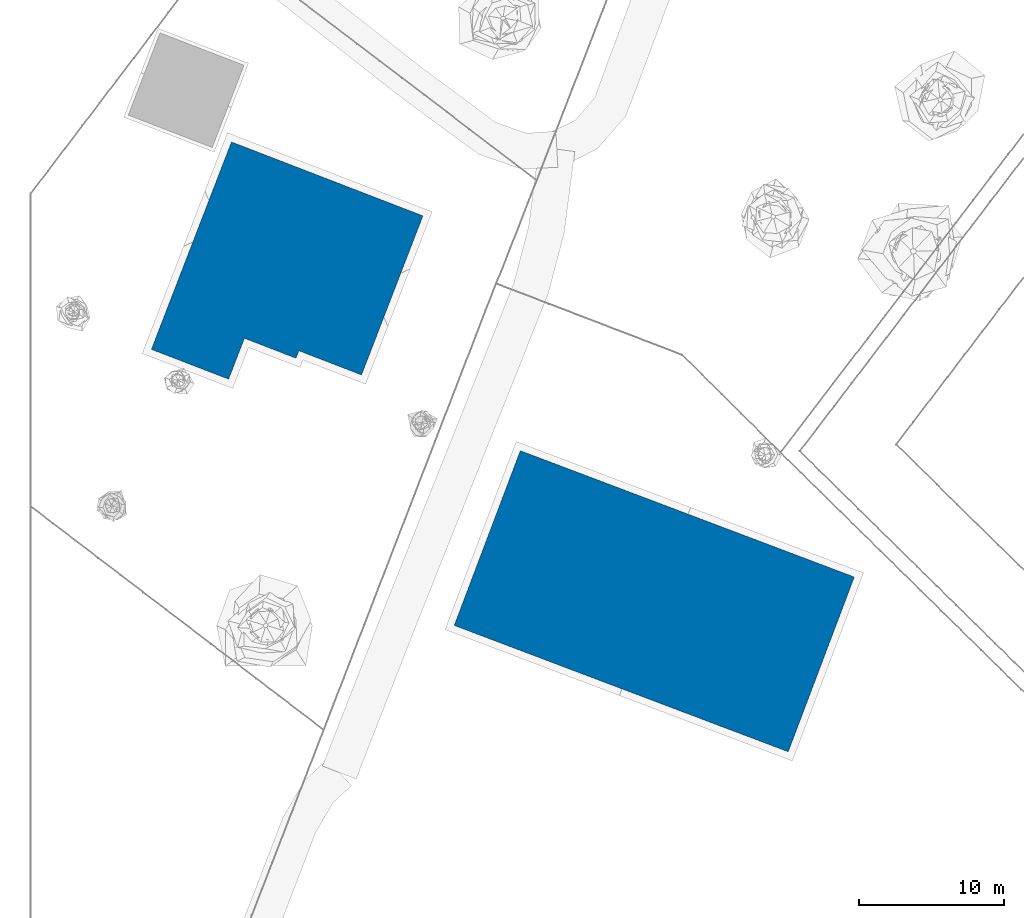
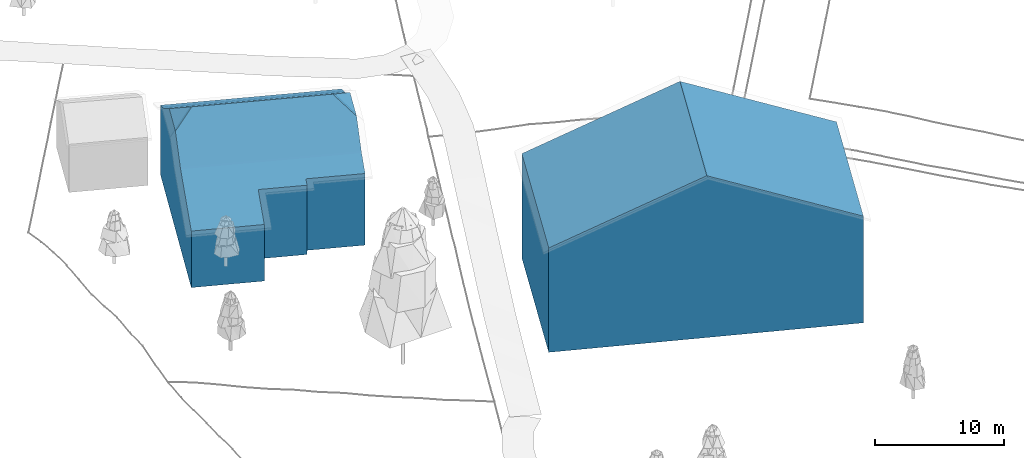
# Not in any storey, part 1 of 88: 2 walls.
"""IFC4 building model written with IfcOpenShell, lengths in metres."""

from ifc_helpers import new_model, si_unit, origin_with_axes, place, context, subcontext, project, spatial, faceted_brep, element, save


model = new_model("IFC4")

# Units and contexts
model_context = context("Model", 3, precision=1e-05, world=origin_with_axes())
body_context = subcontext(model_context, "Body", "Model", "MODEL_VIEW")
ifc_project = project(units=[si_unit("LENGTHUNIT", "METRE"), si_unit("AREAUNIT", "SQUARE_METRE"), si_unit("VOLUMEUNIT", "CUBIC_METRE"), si_unit("PLANEANGLEUNIT", "RADIAN")], contexts=[model_context])

# Sites, building
site_1_placement = place(None, origin_with_axes())
site_1 = spatial("IfcSite", under=ifc_project, at=site_1_placement, Name="CH907857693633", CompositionType="ELEMENT")
site_2_placement = place(None, origin_with_axes())
site_2 = spatial("IfcSite", under=site_1, at=site_2_placement, Name="Buildings", CompositionType="ELEMENT")
building_1_placement = place(None, origin_with_axes())
building_1 = spatial("IfcBuilding", under=site_2, at=building_1_placement, Name="Building_2D9329A2", CompositionType="ELEMENT")

# Wall
wall_1_placement = place(building_1_placement, origin_with_axes())
element("IfcWall", 1, at=wall_1_placement, inside=building_1, Name="Building_2D9329A2_Wall", PredefinedType="NOTDEFINED", context=body_context, shape_type="Brep", body=[
    faceted_brep([(48.8220000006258, 68.9959999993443, 12.4312877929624), (52.2780000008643, 60.7960000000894, 9.82748779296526), (54.5579999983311, 66.8260000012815, 9.82748779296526), (52.2780000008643, 60.7960000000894, 9.82748779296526), (48.8220000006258, 68.9959999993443, 12.4312877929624), (46.5419999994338, 62.9659999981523, 12.4312877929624), (48.8220000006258, 68.9959999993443, 12.4312877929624), (54.5579999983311, 66.8260000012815, 9.82748779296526), (56.8379999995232, 72.8559999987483, 9.82748779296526), (45.3660000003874, 77.1959999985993, 15.0350877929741), (48.8220000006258, 68.9959999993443, 12.4312877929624), (51.1020000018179, 75.0260000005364, 12.4312877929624), (37.2960000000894, 73.3539999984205, 12.3253877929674), (40.8040000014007, 65.1339999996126, 15.0350877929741), (43.0859999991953, 71.1660000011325, 15.0350877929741), (45.3660000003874, 77.1959999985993, 15.0350877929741), (39.5780000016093, 79.3859999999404, 12.3252877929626), (37.2960000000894, 73.3539999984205, 12.3253877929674), (40.8040000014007, 65.1339999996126, 15.0350877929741), (37.2960000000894, 73.3539999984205, 12.3253877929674), (35.0159999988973, 67.3240000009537, 12.3253877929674), (37.2960000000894, 73.3539999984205, 12.3253877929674), (43.0859999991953, 71.1660000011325, 15.0350877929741), (45.3660000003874, 77.1959999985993, 15.0350877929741), (37.2960000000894, 73.3539999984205, 12.3253877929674), (33.7879999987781, 81.5740000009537, 9.61358779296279), (31.5080000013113, 75.5439999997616, 9.61358779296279), (33.7879999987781, 81.5740000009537, 9.61358779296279), (37.2960000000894, 73.3539999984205, 12.3253877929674), (39.5780000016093, 79.3859999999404, 12.3252877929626), (52.2780000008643, 60.7960000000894, -0.231712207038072), (54.5579999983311, 66.8260000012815, -0.231712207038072), (54.5579999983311, 66.8260000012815, 4.79788779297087), (56.8379999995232, 72.8559999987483, 9.82748779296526), (54.5579999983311, 66.8260000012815, 9.82748779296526), (54.5579999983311, 66.8260000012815, 4.79788779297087), (52.2780000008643, 60.7960000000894, 9.82748779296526), (54.5579999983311, 66.8260000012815, 4.79788779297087), (54.5579999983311, 66.8260000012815, 9.82748779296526), (54.5579999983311, 66.8260000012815, 4.79788779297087), (56.8379999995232, 72.8559999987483, -0.231712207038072), (56.8379999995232, 72.8559999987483, 9.82748779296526), (56.8379999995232, 72.8559999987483, -0.231712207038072), (54.5579999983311, 66.8260000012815, 4.79788779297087), (54.5579999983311, 66.8260000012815, -0.231712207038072), (54.5579999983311, 66.8260000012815, 4.79788779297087), (52.2780000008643, 60.7960000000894, 9.82748779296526), (52.2780000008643, 60.7960000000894, -0.231712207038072), (56.8379999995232, 72.8559999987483, -0.231712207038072), (51.1020000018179, 75.0260000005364, 7.401687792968), (56.8379999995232, 72.8559999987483, 9.82748779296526), (51.1020000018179, 75.0260000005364, 12.4312877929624), (56.8379999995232, 72.8559999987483, 9.82748779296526), (51.1020000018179, 75.0260000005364, 7.401687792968), (39.5780000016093, 79.3859999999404, 7.401687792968), (33.7879999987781, 81.5740000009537, 9.61358779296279), (39.5780000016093, 79.3859999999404, 12.3252877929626), (33.7879999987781, 81.5740000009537, 9.61358779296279), (39.5780000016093, 79.3859999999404, 7.401687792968), (33.7879999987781, 81.5740000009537, -0.231712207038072), (45.3139999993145, 77.2159999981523, -0.231712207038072), (39.5780000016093, 79.3859999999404, 7.401687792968), (45.339999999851, 77.2060000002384, 7.401687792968), (51.1020000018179, 75.0260000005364, 7.401687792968), (51.0760000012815, 75.0359999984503, -0.231712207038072), (45.3139999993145, 77.2159999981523, -0.231712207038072), (45.3139999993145, 77.2159999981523, -0.231712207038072), (45.339999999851, 77.2060000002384, 7.401687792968), (51.1020000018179, 75.0260000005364, 7.401687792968), (51.1020000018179, 75.0260000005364, 7.401687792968), (56.8379999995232, 72.8559999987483, -0.231712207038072), (51.0760000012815, 75.0359999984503, -0.231712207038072), (29.2280000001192, 69.5139999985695, 9.61358779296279), (31.5080000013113, 75.5439999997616, 4.68998779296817), (29.2280000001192, 69.5139999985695, -0.231612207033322), (31.5080000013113, 75.5439999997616, -0.231712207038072), (29.2280000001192, 69.5139999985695, -0.231612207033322), (31.5080000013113, 75.5439999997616, 4.68998779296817), (31.5080000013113, 75.5439999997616, 4.68998779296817), (29.2280000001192, 69.5139999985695, 9.61358779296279), (31.5080000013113, 75.5439999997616, 9.61358779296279), (33.7879999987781, 81.5740000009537, -0.231712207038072), (31.5080000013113, 75.5439999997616, 4.68998779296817), (33.7879999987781, 81.5740000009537, 9.61358779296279), (31.5080000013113, 75.5439999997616, 9.61358779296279), (33.7879999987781, 81.5740000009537, 9.61358779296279), (31.5080000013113, 75.5439999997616, 4.68998779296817), (31.5080000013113, 75.5439999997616, 4.68998779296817), (33.7879999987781, 81.5740000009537, -0.231712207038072), (31.5080000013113, 75.5439999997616, -0.231712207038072), (52.2780000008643, 60.7960000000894, 9.82748779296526), (46.5419999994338, 62.9659999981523, 12.4312877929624), (46.5419999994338, 62.9659999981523, 7.401687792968), (46.5419999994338, 62.9659999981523, 7.401687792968), (52.2780000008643, 60.7960000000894, -0.231712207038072), (52.2780000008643, 60.7960000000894, 9.82748779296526), (35.0159999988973, 67.3240000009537, 7.401687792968), (29.2280000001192, 69.5139999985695, 9.61358779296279), (29.2280000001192, 69.5139999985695, -0.231612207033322), (29.2280000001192, 69.5139999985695, 9.61358779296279), (35.0159999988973, 67.3240000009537, 7.401687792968), (35.0159999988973, 67.3240000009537, 12.3253877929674), (40.7780000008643, 65.1440000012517, 7.401687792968), (40.7520000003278, 65.1539999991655, -0.233712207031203), (46.5419999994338, 62.9659999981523, 7.401687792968), (40.7520000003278, 65.1539999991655, -0.233712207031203), (35.0159999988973, 67.3240000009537, 7.401687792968), (34.9899999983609, 67.3339999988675, -0.231712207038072), (35.0159999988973, 67.3240000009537, 7.401687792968), (40.7520000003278, 65.1539999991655, -0.233712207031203), (40.7780000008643, 65.1440000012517, 7.401687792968), (52.2780000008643, 60.7960000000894, -0.231712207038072), (47.6559999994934, 65.9899999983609, -0.231712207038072), (54.5579999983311, 66.8260000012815, -0.231712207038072), (34.9899999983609, 67.3339999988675, -0.231712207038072), (29.2280000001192, 69.5139999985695, -0.231612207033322), (36.1299999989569, 70.3500000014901, -0.231712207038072), (38.410000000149, 76.3799999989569, -0.231712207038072), (33.7879999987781, 81.5740000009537, -0.231712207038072), (39.5500000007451, 79.3960000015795, -0.231712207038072), (47.6559999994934, 65.9899999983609, -0.231712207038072), (52.2780000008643, 60.7960000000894, -0.231712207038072), (46.5159999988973, 62.9739999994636, -0.231712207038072), (51.0760000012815, 75.0359999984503, -0.231712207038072), (56.8379999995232, 72.8559999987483, -0.231712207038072), (49.9360000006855, 72.0219999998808, -0.231712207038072), (36.1299999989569, 70.3500000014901, -0.231712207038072), (40.7520000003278, 65.1539999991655, -0.233712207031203), (34.9899999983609, 67.3339999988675, -0.231712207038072), (49.9360000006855, 72.0219999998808, -0.231712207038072), (45.3139999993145, 77.2159999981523, -0.231712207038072), (51.0760000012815, 75.0359999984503, -0.231712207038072), (47.6559999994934, 65.9899999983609, -0.231712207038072), (43.0320000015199, 71.1860000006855, -0.231712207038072), (49.9360000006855, 72.0219999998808, -0.231712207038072), (36.1299999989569, 70.3500000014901, -0.231712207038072), (29.2280000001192, 69.5139999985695, -0.231612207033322), (38.410000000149, 76.3799999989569, -0.231712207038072), (43.0320000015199, 71.1860000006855, -0.231712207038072), (38.410000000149, 76.3799999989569, -0.231712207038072), (45.3139999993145, 77.2159999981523, -0.231712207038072), (54.5579999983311, 66.8260000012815, -0.231712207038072), (47.6559999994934, 65.9899999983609, -0.231712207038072), (56.8379999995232, 72.8559999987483, -0.231712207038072), (40.7520000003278, 65.1539999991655, -0.233712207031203), (36.1299999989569, 70.3500000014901, -0.231712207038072), (43.0320000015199, 71.1860000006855, -0.231712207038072), (38.410000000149, 76.3799999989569, -0.231712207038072), (43.0320000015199, 71.1860000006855, -0.231712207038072), (36.1299999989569, 70.3500000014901, -0.231712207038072), (31.5080000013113, 75.5439999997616, -0.231712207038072), (38.410000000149, 76.3799999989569, -0.231712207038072), (29.2280000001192, 69.5139999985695, -0.231612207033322), (33.7879999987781, 81.5740000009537, -0.231712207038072), (38.410000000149, 76.3799999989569, -0.231712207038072), (31.5080000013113, 75.5439999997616, -0.231712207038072), (43.0320000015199, 71.1860000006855, -0.231712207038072), (47.6559999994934, 65.9899999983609, -0.231712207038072), (40.7520000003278, 65.1539999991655, -0.233712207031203), (49.9360000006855, 72.0219999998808, -0.231712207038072), (56.8379999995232, 72.8559999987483, -0.231712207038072), (47.6559999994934, 65.9899999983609, -0.231712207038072), (45.3139999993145, 77.2159999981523, -0.231712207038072), (49.9360000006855, 72.0219999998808, -0.231712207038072), (43.0320000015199, 71.1860000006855, -0.231712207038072), (39.5500000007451, 79.3960000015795, -0.231712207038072), (45.3139999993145, 77.2159999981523, -0.231712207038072), (38.410000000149, 76.3799999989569, -0.231712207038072), (46.5159999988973, 62.9739999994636, -0.231712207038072), (40.7520000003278, 65.1539999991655, -0.233712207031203), (47.6559999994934, 65.9899999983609, -0.231712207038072), (40.7780000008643, 65.1440000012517, 7.401687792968), (40.8040000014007, 65.1339999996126, 15.0350877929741), (35.0159999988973, 67.3240000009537, 7.401687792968), (46.5419999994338, 62.9659999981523, 7.401687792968), (40.8040000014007, 65.1339999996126, 15.0350877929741), (40.7780000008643, 65.1440000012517, 7.401687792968), (45.3660000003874, 77.1959999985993, 15.0350877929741), (39.5780000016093, 79.3859999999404, 7.401687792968), (39.5780000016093, 79.3859999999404, 12.3252877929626), (33.7879999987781, 81.5740000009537, -0.231712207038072), (39.5780000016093, 79.3859999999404, 7.401687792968), (39.5500000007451, 79.3960000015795, -0.231712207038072), (40.8040000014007, 65.1339999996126, 15.0350877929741), (46.5419999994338, 62.9659999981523, 7.401687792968), (46.5419999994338, 62.9659999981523, 12.4312877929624), (52.2780000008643, 60.7960000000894, -0.231712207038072), (46.5419999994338, 62.9659999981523, 7.401687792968), (46.5159999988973, 62.9739999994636, -0.231712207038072), (45.3660000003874, 77.1959999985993, 15.0350877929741), (45.339999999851, 77.2060000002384, 7.401687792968), (39.5780000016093, 79.3859999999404, 7.401687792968), (45.3660000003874, 77.1959999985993, 15.0350877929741), (51.1020000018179, 75.0260000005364, 7.401687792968), (45.339999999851, 77.2060000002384, 7.401687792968), (29.2280000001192, 69.5139999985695, 9.61358779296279), (37.2960000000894, 73.3539999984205, 12.3253877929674), (31.5080000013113, 75.5439999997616, 9.61358779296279), (48.8220000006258, 68.9959999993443, 12.4312877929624), (43.0859999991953, 71.1660000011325, 15.0350877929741), (40.8040000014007, 65.1339999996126, 15.0350877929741), (48.8220000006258, 68.9959999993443, 12.4312877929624), (45.3660000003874, 77.1959999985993, 15.0350877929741), (43.0859999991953, 71.1660000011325, 15.0350877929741), (37.2960000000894, 73.3539999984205, 12.3253877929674), (29.2280000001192, 69.5139999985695, 9.61358779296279), (35.0159999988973, 67.3240000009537, 12.3253877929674), (35.0159999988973, 67.3240000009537, 7.401687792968), (40.8040000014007, 65.1339999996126, 15.0350877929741), (35.0159999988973, 67.3240000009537, 12.3253877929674), (48.8220000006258, 68.9959999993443, 12.4312877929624), (40.8040000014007, 65.1339999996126, 15.0350877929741), (46.5419999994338, 62.9659999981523, 12.4312877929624), (48.8220000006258, 68.9959999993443, 12.4312877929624), (56.8379999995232, 72.8559999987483, 9.82748779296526), (51.1020000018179, 75.0260000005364, 12.4312877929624), (51.1020000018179, 75.0260000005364, 7.401687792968), (45.3660000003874, 77.1959999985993, 15.0350877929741), (51.1020000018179, 75.0260000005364, 12.4312877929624), (35.0159999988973, 67.3240000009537, 7.401687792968), (29.2280000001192, 69.5139999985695, -0.231612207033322), (34.9899999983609, 67.3339999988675, -0.231712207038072), (46.5419999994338, 62.9659999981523, 7.401687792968), (40.7520000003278, 65.1539999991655, -0.233712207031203), (46.5159999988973, 62.9739999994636, -0.231712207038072), (39.5780000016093, 79.3859999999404, 7.401687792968), (45.3139999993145, 77.2159999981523, -0.231712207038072), (39.5500000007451, 79.3960000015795, -0.231712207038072)], [[[0, 1, 2]], [[3, 4, 5]], [[6, 7, 8]], [[9, 10, 11]], [[12, 13, 14]], [[15, 16, 17]], [[18, 19, 20]], [[21, 22, 23]], [[24, 25, 26]], [[27, 28, 29]], [[30, 31, 32]], [[33, 34, 35]], [[36, 37, 38]], [[39, 40, 41]], [[42, 43, 44]], [[45, 46, 47]], [[48, 49, 50]], [[51, 52, 53]], [[54, 55, 56]], [[57, 58, 59]], [[60, 61, 62]], [[63, 64, 65]], [[66, 67, 68]], [[69, 70, 71]], [[72, 73, 74]], [[75, 76, 77]], [[78, 79, 80]], [[81, 82, 83]], [[84, 85, 86]], [[87, 88, 89]], [[90, 91, 92]], [[93, 94, 95]], [[96, 97, 98]], [[99, 100, 101]], [[102, 103, 104]], [[105, 106, 107]], [[108, 109, 110]], [[111, 112, 113]], [[114, 115, 116]], [[117, 118, 119]], [[120, 121, 122]], [[123, 124, 125]], [[126, 127, 128]], [[129, 130, 131]], [[132, 133, 134]], [[135, 136, 137]], [[138, 139, 140]], [[141, 142, 143]], [[144, 145, 146]], [[147, 148, 149]], [[150, 151, 152]], [[153, 154, 155]], [[156, 157, 158]], [[159, 160, 161]], [[162, 163, 164]], [[165, 166, 167]], [[168, 169, 170]], [[171, 172, 173]], [[174, 175, 176]], [[177, 178, 179]], [[180, 181, 182]], [[183, 184, 185]], [[186, 187, 188]], [[189, 190, 191]], [[192, 193, 194]], [[195, 196, 197]], [[198, 199, 200]], [[201, 202, 203]], [[204, 205, 206]], [[207, 208, 209]], [[210, 211, 212]], [[213, 214, 215]], [[216, 217, 218]], [[219, 220, 221]], [[222, 223, 224]], [[225, 226, 227]]]),
])

# Building
building_2_placement = place(None, origin_with_axes())
building_2 = spatial("IfcBuilding", under=site_2, at=building_2_placement, Name="Building_7084BE5A", CompositionType="ELEMENT")

# Wall
wall_2_placement = place(building_2_placement, origin_with_axes())
element("IfcWall", 2, at=wall_2_placement, inside=building_2, Name="Building_7084BE5A_Wall", PredefinedType="NOTDEFINED", context=body_context, shape_type="Brep", body=[
    faceted_brep([(24.3680000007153, 90.7930000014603, 10.8414877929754), (23.4519999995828, 92.8909999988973, 11.9733877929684), (23.4640000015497, 88.4549999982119, 9.09758779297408), (13.1640000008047, 96.8610000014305, 11.9733877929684), (16.8520000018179, 93.2230000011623, 10.535487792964), (18.3079999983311, 94.8770000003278, 11.9733877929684), (23.4640000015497, 88.4549999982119, 9.09758779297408), (23.4519999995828, 92.8909999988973, 11.9733877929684), (16.8579999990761, 91.0029999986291, 9.09758779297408), (13.1640000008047, 96.8610000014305, 11.9733877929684), (11.1840000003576, 95.9710000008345, 10.9014877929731), (10.2520000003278, 93.5529999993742, 9.09768779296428), (25.5379999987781, 93.8310000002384, 10.8414877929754), (23.4519999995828, 92.8909999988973, 11.9733877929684), (24.3680000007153, 90.7930000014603, 10.8414877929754), (23.4519999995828, 92.8909999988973, 11.9733877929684), (19.8339999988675, 98.7190000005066, 9.09758779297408), (18.339999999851, 97.0810000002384, 10.535487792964), (26.4400000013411, 96.1710000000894, 9.09758779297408), (23.4519999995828, 92.8909999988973, 11.9733877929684), (25.5379999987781, 93.8310000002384, 10.8414877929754), (13.230000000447, 101.269000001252, 9.09768779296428), (12.2939999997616, 98.8509999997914, 10.9014877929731), (13.1640000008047, 96.8610000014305, 11.9733877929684), (13.230000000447, 101.269000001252, 9.09768779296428), (13.1640000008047, 96.8610000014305, 11.9733877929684), (18.339999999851, 97.0810000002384, 10.535487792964), (13.8520000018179, 102.885000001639, 8.23968779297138), (20.1460000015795, 99.5269999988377, 8.6696877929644), (20.4580000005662, 100.335000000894, 8.23968779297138), (26.4400000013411, 96.1710000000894, 9.09758779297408), (20.1460000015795, 99.5269999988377, 8.6696877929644), (19.8339999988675, 98.7190000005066, 9.09758779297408), (20.1460000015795, 99.5269999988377, 8.6696877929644), (26.4400000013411, 96.1710000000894, 9.09758779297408), (27.0639999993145, 97.785000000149, 8.23968779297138), (11.1840000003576, 95.9710000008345, 10.9014877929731), (13.1640000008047, 96.8610000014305, 11.9733877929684), (12.2939999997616, 98.8509999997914, 10.9014877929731), (8.3260000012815, 88.5670000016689, 6.97378779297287), (13.6539999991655, 86.5130000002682, 6.97378779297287), (14.7439999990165, 89.3350000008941, 8.17768779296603), (8.3260000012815, 88.5670000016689, 6.97378779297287), (14.7439999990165, 89.3350000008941, 8.17768779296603), (10.2520000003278, 93.5529999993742, 9.09768779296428), (14.7439999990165, 89.3350000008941, 8.17768779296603), (18.3040000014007, 87.9589999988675, 8.17568779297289), (18.5020000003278, 88.4750000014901, 8.39568779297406), (10.2520000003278, 93.5529999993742, 9.09768779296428), (14.7439999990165, 89.3350000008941, 8.17768779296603), (14.3759999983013, 91.0130000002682, 8.74768779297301), (18.5020000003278, 88.4750000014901, 8.39568779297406), (22.8260000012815, 86.804999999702, 8.39568779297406), (23.4640000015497, 88.4549999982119, 9.09758779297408), (18.5020000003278, 88.4750000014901, 8.39568779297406), (16.8579999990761, 91.0029999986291, 9.09758779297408), (14.3759999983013, 91.0130000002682, 8.74768779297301), (23.4640000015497, 88.4549999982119, 9.09758779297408), (22.8260000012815, 86.804999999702, 8.39568779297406), (24.1420000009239, 90.2129999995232, 1.63618779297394), (24.3680000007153, 90.7930000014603, 10.8414877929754), (23.4640000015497, 88.4549999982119, 9.09758779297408), (24.2540000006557, 90.5029999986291, 6.23988779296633), (22.8260000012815, 86.804999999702, 8.39568779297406), (22.8260000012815, 86.804999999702, 1.63818779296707), (24.1420000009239, 90.2129999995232, 1.63618779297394), (24.1420000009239, 90.2129999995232, 1.63618779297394), (27.0639999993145, 97.785000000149, 1.63818779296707), (25.2919999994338, 93.1909999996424, 5.3678877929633), (26.4400000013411, 96.1710000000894, 9.09758779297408), (24.839999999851, 92.0210000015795, 6.23988779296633), (25.2919999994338, 93.1909999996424, 5.3678877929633), (25.5379999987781, 93.8310000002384, 10.8414877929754), (24.3680000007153, 90.7930000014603, 10.8414877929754), (24.839999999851, 92.0210000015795, 6.23988779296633), (27.0639999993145, 97.785000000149, 1.63818779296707), (27.0639999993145, 97.785000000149, 8.23968779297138), (26.4400000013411, 96.1710000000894, 9.09758779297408), (20.4580000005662, 100.335000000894, 4.93798779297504), (27.0639999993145, 97.785000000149, 1.63818779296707), (20.4580000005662, 100.335000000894, 1.63818779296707), (20.4580000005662, 100.335000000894, 4.93798779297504), (20.4580000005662, 100.335000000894, 8.23968779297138), (27.0639999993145, 97.785000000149, 8.23968779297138), (27.0639999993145, 97.785000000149, 1.63818779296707), (20.4580000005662, 100.335000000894, 4.93798779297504), (27.0639999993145, 97.785000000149, 8.23968779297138), (20.4580000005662, 100.335000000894, 4.93798779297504), (13.8520000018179, 102.885000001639, 8.23968779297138), (20.4580000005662, 100.335000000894, 8.23968779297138), (13.8520000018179, 102.885000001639, 8.23968779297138), (20.4580000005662, 100.335000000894, 4.93798779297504), (13.8520000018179, 102.885000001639, 1.63818779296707), (20.4580000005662, 100.335000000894, 4.93798779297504), (20.4580000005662, 100.335000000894, 1.63818779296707), (13.8520000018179, 102.885000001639, 1.63818779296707), (13.8520000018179, 102.885000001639, 8.23968779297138), (13.8520000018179, 102.885000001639, 1.63818779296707), (13.230000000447, 101.269000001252, 9.09768779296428), (10.2520000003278, 93.5529999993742, 9.09768779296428), (11.089999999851, 95.7250000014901, 1.63618779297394), (9.2879999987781, 91.0610000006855, 5.36798779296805), (13.230000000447, 101.269000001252, 9.09768779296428), (12.0520000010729, 98.2190000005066, 5.3678877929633), (11.7399999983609, 97.4109999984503, 9.09768779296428), (8.32800000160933, 88.5670000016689, 1.63818779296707), (8.3260000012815, 88.5670000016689, 6.97378779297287), (9.2879999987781, 91.0610000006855, 5.36798779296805), (10.2520000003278, 93.5529999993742, 9.09768779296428), (11.1840000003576, 95.9710000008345, 10.9014877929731), (12.2939999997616, 98.8509999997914, 10.9014877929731), (10.2520000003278, 93.5529999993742, 9.09768779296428), (12.2939999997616, 98.8509999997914, 10.9014877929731), (11.7399999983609, 97.4109999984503, 9.09768779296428), (8.3260000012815, 88.5670000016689, 6.97378779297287), (8.32800000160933, 88.5670000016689, 1.63818779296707), (13.6539999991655, 86.5130000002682, 6.97378779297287), (13.6539999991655, 86.5130000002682, 1.63818779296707), (13.6539999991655, 86.5130000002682, 6.97378779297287), (8.32800000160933, 88.5670000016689, 1.63818779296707), (13.6539999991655, 86.5130000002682, 6.97378779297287), (14.7439999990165, 89.3350000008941, 1.63818779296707), (14.7439999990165, 89.3350000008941, 8.17768779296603), (14.7439999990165, 89.3350000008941, 1.63818779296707), (13.6539999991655, 86.5130000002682, 6.97378779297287), (13.6539999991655, 86.5130000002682, 1.63818779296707), (18.3040000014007, 87.9589999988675, 8.17568779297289), (14.7439999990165, 89.3350000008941, 8.17768779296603), (14.7439999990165, 89.3350000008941, 1.63818779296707), (18.3040000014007, 87.9589999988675, 1.63818779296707), (18.3040000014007, 87.9589999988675, 8.17568779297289), (14.7439999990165, 89.3350000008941, 1.63818779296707), (18.3040000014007, 87.9589999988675, 8.17568779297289), (18.5020000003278, 88.4750000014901, 1.63818779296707), (18.5020000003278, 88.4750000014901, 8.39568779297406), (18.5020000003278, 88.4750000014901, 1.63818779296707), (18.3040000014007, 87.9589999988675, 8.17568779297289), (18.3040000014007, 87.9589999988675, 1.63818779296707), (22.8260000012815, 86.804999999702, 8.39568779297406), (18.5020000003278, 88.4750000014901, 8.39568779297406), (20.6640000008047, 87.6389999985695, 5.0159877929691), (18.5020000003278, 88.4750000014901, 1.63818779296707), (22.8260000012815, 86.804999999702, 1.63818779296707), (20.6640000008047, 87.6389999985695, 5.0159877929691), (24.1420000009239, 90.2129999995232, 1.63618779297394), (22.7820000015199, 93.1290000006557, 1.63818779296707), (27.0639999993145, 97.785000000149, 1.63818779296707), (22.7820000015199, 93.1290000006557, 1.63818779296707), (21.6200000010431, 96.7329999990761, 1.63818779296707), (27.0639999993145, 97.785000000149, 1.63818779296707), (21.6200000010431, 96.7329999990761, 1.63818779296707), (22.7820000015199, 93.1290000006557, 1.63818779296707), (16.1759999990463, 95.6790000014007, 1.63818779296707), (22.7820000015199, 93.1290000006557, 1.63818779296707), (24.1420000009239, 90.2129999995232, 1.63618779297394), (18.5020000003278, 88.4750000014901, 1.63818779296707), (21.6200000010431, 96.7329999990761, 1.63818779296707), (20.4580000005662, 100.335000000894, 1.63818779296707), (27.0639999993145, 97.785000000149, 1.63818779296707), (22.8260000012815, 86.804999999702, 1.63818779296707), (18.5020000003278, 88.4750000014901, 1.63818779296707), (24.1420000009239, 90.2129999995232, 1.63618779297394), (14.2980000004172, 96.1090000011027, 1.63818779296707), (14.7439999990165, 89.3350000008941, 1.63818779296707), (11.089999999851, 95.7250000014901, 1.63618779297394), (14.7439999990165, 89.3350000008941, 1.63818779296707), (14.2980000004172, 96.1090000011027, 1.63818779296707), (16.1759999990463, 95.6790000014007, 1.63818779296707), (16.1759999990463, 95.6790000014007, 1.63818779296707), (13.8520000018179, 102.885000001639, 1.63818779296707), (20.4580000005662, 100.335000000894, 1.63818779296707), (16.1759999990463, 95.6790000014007, 1.63818779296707), (18.5020000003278, 88.4750000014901, 1.63818779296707), (14.7439999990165, 89.3350000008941, 1.63818779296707), (13.6539999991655, 86.5130000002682, 1.63818779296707), (8.32800000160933, 88.5670000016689, 1.63818779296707), (14.7439999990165, 89.3350000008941, 1.63818779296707), (11.089999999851, 95.7250000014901, 1.63618779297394), (14.7439999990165, 89.3350000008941, 1.63818779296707), (8.32800000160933, 88.5670000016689, 1.63818779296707), (13.8520000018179, 102.885000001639, 1.63818779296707), (14.2980000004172, 96.1090000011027, 1.63818779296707), (11.089999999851, 95.7250000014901, 1.63618779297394), (18.5020000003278, 88.4750000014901, 1.63818779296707), (16.1759999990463, 95.6790000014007, 1.63818779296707), (22.7820000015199, 93.1290000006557, 1.63818779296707), (20.4580000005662, 100.335000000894, 1.63818779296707), (21.6200000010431, 96.7329999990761, 1.63818779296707), (16.1759999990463, 95.6790000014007, 1.63818779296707), (14.2980000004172, 96.1090000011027, 1.63818779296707), (13.8520000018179, 102.885000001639, 1.63818779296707), (16.1759999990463, 95.6790000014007, 1.63818779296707), (18.3040000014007, 87.9589999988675, 1.63818779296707), (14.7439999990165, 89.3350000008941, 1.63818779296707), (18.5020000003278, 88.4750000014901, 1.63818779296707), (13.8520000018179, 102.885000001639, 1.63818779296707), (11.089999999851, 95.7250000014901, 1.63618779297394), (12.0520000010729, 98.2190000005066, 5.3678877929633), (13.230000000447, 101.269000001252, 9.09768779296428), (19.8339999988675, 98.7190000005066, 9.09758779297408), (20.1460000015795, 99.5269999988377, 8.6696877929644), (20.1460000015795, 99.5269999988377, 8.6696877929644), (13.8520000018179, 102.885000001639, 8.23968779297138), (13.230000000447, 101.269000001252, 9.09768779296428), (10.2520000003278, 93.5529999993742, 9.09768779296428), (16.8579999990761, 91.0029999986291, 9.09758779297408), (16.8520000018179, 93.2230000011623, 10.535487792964), (18.5020000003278, 88.4750000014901, 8.39568779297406), (23.4640000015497, 88.4549999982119, 9.09758779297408), (16.8579999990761, 91.0029999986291, 9.09758779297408), (23.4519999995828, 92.8909999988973, 11.9733877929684), (26.4400000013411, 96.1710000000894, 9.09758779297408), (19.8339999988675, 98.7190000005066, 9.09758779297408), (20.1460000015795, 99.5269999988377, 8.6696877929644), (27.0639999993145, 97.785000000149, 8.23968779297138), (20.4580000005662, 100.335000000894, 8.23968779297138), (13.1640000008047, 96.8610000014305, 11.9733877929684), (10.2520000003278, 93.5529999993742, 9.09768779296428), (16.8520000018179, 93.2230000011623, 10.535487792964), (16.8579999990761, 91.0029999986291, 9.09758779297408), (23.4519999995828, 92.8909999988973, 11.9733877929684), (16.8520000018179, 93.2230000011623, 10.535487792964), (19.8339999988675, 98.7190000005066, 9.09758779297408), (13.230000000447, 101.269000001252, 9.09768779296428), (18.339999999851, 97.0810000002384, 10.535487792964), (23.4519999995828, 92.8909999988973, 11.9733877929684), (18.339999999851, 97.0810000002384, 10.535487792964), (18.3079999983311, 94.8770000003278, 11.9733877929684), (11.089999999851, 95.7250000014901, 1.63618779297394), (10.2520000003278, 93.5529999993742, 9.09768779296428), (12.0520000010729, 98.2190000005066, 5.3678877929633), (13.230000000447, 101.269000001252, 9.09768779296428), (13.8520000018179, 102.885000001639, 1.63818779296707), (12.0520000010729, 98.2190000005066, 5.3678877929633), (16.8520000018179, 93.2230000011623, 10.535487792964), (23.4519999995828, 92.8909999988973, 11.9733877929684), (18.3079999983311, 94.8770000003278, 11.9733877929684), (18.339999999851, 97.0810000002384, 10.535487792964), (13.1640000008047, 96.8610000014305, 11.9733877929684), (18.3079999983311, 94.8770000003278, 11.9733877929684), (26.4400000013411, 96.1710000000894, 9.09758779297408), (25.5379999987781, 93.8310000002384, 10.8414877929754), (24.839999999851, 92.0210000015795, 6.23988779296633), (24.1420000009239, 90.2129999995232, 1.63618779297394), (24.839999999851, 92.0210000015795, 6.23988779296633), (24.2540000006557, 90.5029999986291, 6.23988779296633), (27.0639999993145, 97.785000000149, 1.63818779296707), (26.4400000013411, 96.1710000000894, 9.09758779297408), (25.2919999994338, 93.1909999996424, 5.3678877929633), (24.839999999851, 92.0210000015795, 6.23988779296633), (24.1420000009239, 90.2129999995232, 1.63618779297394), (25.2919999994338, 93.1909999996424, 5.3678877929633), (14.7439999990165, 89.3350000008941, 8.17768779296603), (18.5020000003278, 88.4750000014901, 8.39568779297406), (14.3759999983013, 91.0130000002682, 8.74768779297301), (16.8579999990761, 91.0029999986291, 9.09758779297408), (10.2520000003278, 93.5529999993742, 9.09768779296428), (14.3759999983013, 91.0130000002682, 8.74768779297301), (23.4640000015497, 88.4549999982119, 9.09758779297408), (24.1420000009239, 90.2129999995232, 1.63618779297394), (24.2540000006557, 90.5029999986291, 6.23988779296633), (24.839999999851, 92.0210000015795, 6.23988779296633), (24.3680000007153, 90.7930000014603, 10.8414877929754), (24.2540000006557, 90.5029999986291, 6.23988779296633), (11.089999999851, 95.7250000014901, 1.63618779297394), (8.32800000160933, 88.5670000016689, 1.63818779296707), (9.2879999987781, 91.0610000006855, 5.36798779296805), (8.3260000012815, 88.5670000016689, 6.97378779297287), (10.2520000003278, 93.5529999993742, 9.09768779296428), (9.2879999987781, 91.0610000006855, 5.36798779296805), (12.0520000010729, 98.2190000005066, 5.3678877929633), (10.2520000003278, 93.5529999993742, 9.09768779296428), (11.7399999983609, 97.4109999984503, 9.09768779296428), (12.2939999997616, 98.8509999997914, 10.9014877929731), (13.230000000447, 101.269000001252, 9.09768779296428), (11.7399999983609, 97.4109999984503, 9.09768779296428), (18.5020000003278, 88.4750000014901, 8.39568779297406), (18.5020000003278, 88.4750000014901, 1.63818779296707), (20.6640000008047, 87.6389999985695, 5.0159877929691), (22.8260000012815, 86.804999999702, 1.63818779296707), (22.8260000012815, 86.804999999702, 8.39568779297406), (20.6640000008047, 87.6389999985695, 5.0159877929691)], [[[0, 1, 2]], [[3, 4, 5]], [[6, 7, 8]], [[9, 10, 11]], [[12, 13, 14]], [[15, 16, 17]], [[18, 19, 20]], [[21, 22, 23]], [[24, 25, 26]], [[27, 28, 29]], [[30, 31, 32]], [[33, 34, 35]], [[36, 37, 38]], [[39, 40, 41]], [[42, 43, 44]], [[45, 46, 47]], [[48, 49, 50]], [[51, 52, 53]], [[54, 55, 56]], [[57, 58, 59]], [[60, 61, 62]], [[63, 64, 65]], [[66, 67, 68]], [[69, 70, 71]], [[72, 73, 74]], [[75, 76, 77]], [[78, 79, 80]], [[81, 82, 83]], [[84, 85, 86]], [[87, 88, 89]], [[90, 91, 92]], [[93, 94, 95]], [[96, 97, 98]], [[99, 100, 101]], [[102, 103, 104]], [[105, 106, 107]], [[108, 109, 110]], [[111, 112, 113]], [[114, 115, 116]], [[117, 118, 119]], [[120, 121, 122]], [[123, 124, 125]], [[126, 127, 128]], [[129, 130, 131]], [[132, 133, 134]], [[135, 136, 137]], [[138, 139, 140]], [[141, 142, 143]], [[144, 145, 146]], [[147, 148, 149]], [[150, 151, 152]], [[153, 154, 155]], [[156, 157, 158]], [[159, 160, 161]], [[162, 163, 164]], [[165, 166, 167]], [[168, 169, 170]], [[171, 172, 173]], [[174, 175, 176]], [[177, 178, 179]], [[180, 181, 182]], [[183, 184, 185]], [[186, 187, 188]], [[189, 190, 191]], [[192, 193, 194]], [[195, 196, 197]], [[198, 199, 200]], [[201, 202, 203]], [[204, 205, 206]], [[207, 208, 209]], [[210, 211, 212]], [[213, 214, 215]], [[216, 217, 218]], [[219, 220, 221]], [[222, 223, 224]], [[225, 226, 227]], [[228, 229, 230]], [[231, 232, 233]], [[234, 235, 236]], [[237, 238, 239]], [[240, 241, 242]], [[243, 244, 245]], [[246, 247, 248]], [[249, 250, 251]], [[252, 253, 254]], [[255, 256, 257]], [[258, 259, 260]], [[261, 262, 263]], [[264, 265, 266]], [[267, 268, 269]], [[270, 271, 272]], [[273, 274, 275]], [[276, 277, 278]], [[279, 280, 281]]]),
])

save(model, "model.ifc")
